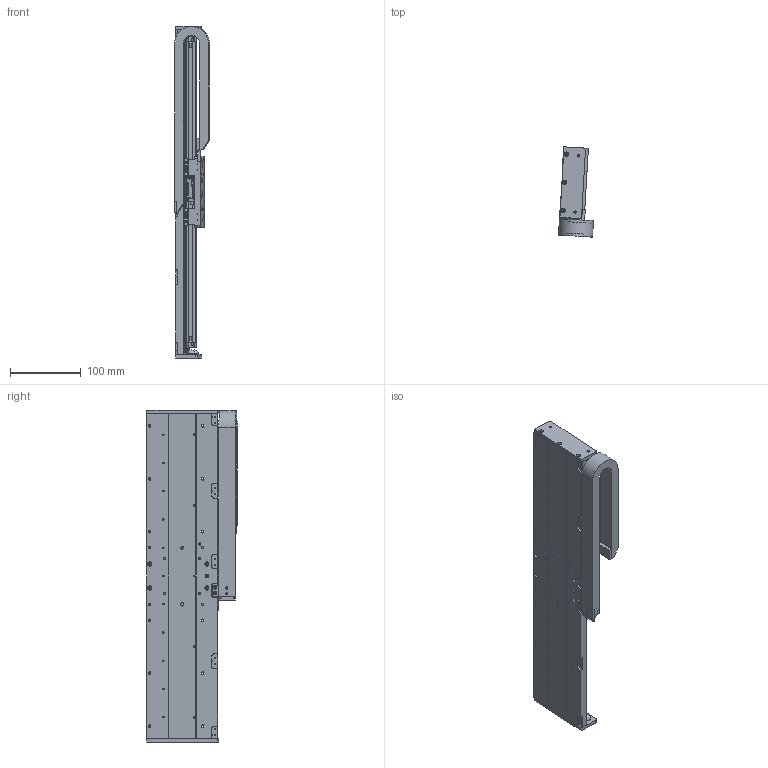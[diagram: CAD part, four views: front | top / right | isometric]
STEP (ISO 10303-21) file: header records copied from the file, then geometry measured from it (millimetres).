
FILE_DESCRIPTION(/* description */ (''),/* implementation_level */ '2;1');
FILE_NAME(/* name */ 'I:\FY15 Projects\MSR\MSR100\Web Step Models\mSR100L-350XLSXXXXXXCM13.stp',/* time_stamp */ '2015-02-18T13:16:16-05:00',/* author */ ('BF20108'),/* organization */ (''),/* preprocessor_version */ 'ST-DEVELOPER v15.2',/* originating_system */ 'Autodesk Inventor 2014',/* authorisation */ '');
FILE_SCHEMA (('AUTOMOTIVE_DESIGN { 1 0 10303 214 3 1 1 }'));
Products named in the file (18): 102-5710-08; 003-3562-40; 102-5702-07; ml18-120m-n; ml18-80m-n; 102-5703-01; 102-5705-01; 002-3740-08; 102-5701; 003-3561; ML18-3E; 003-5000; 002-3740-short-carriage-assy; mx100-mcb; mx100-scb; e045-16-018-carrier-06; 002-3740-cbl-carr-sc-06; 002-3740
Bounding box: 49.52 x 127.66 x 470 mm (x, y, z)
Volume: 784522.2 mm3; surface area: 373510.8 mm2
Topology: 25 solids, 26 shells, 2854 faces, 7651 edges, 4910 vertices
Faces by surface type: plane 1401, cylinder 1066, cone 199, torus 176, bspline 8, sphere 4
Full cylindrical faces by diameter (mm): 0.5 x8, 1 x4, 1.567 x95, 1.588 x2, 2.007 x12, 2.013 x15, 2.135 x4, 2.4 x62, 2.459 x23, 2.5 x20, 2.642 x4, 2.75 x1, 3 x25, 3.242 x15, 3.4 x31, 3.505 x4, 4 x4, 4.17 x2, 4.2 x63, 4.5 x18, 5 x8, 5.08 x2, 6 x35, 11.176 x4
Entity records: 58825 total; most frequent: CARTESIAN_POINT 11150, DIRECTION 9909, ORIENTED_EDGE 9110, EDGE_CURVE 4541, AXIS2_PLACEMENT_3D 3539, VERTEX_POINT 3187, EDGE_LOOP 2847, LINE 2831
